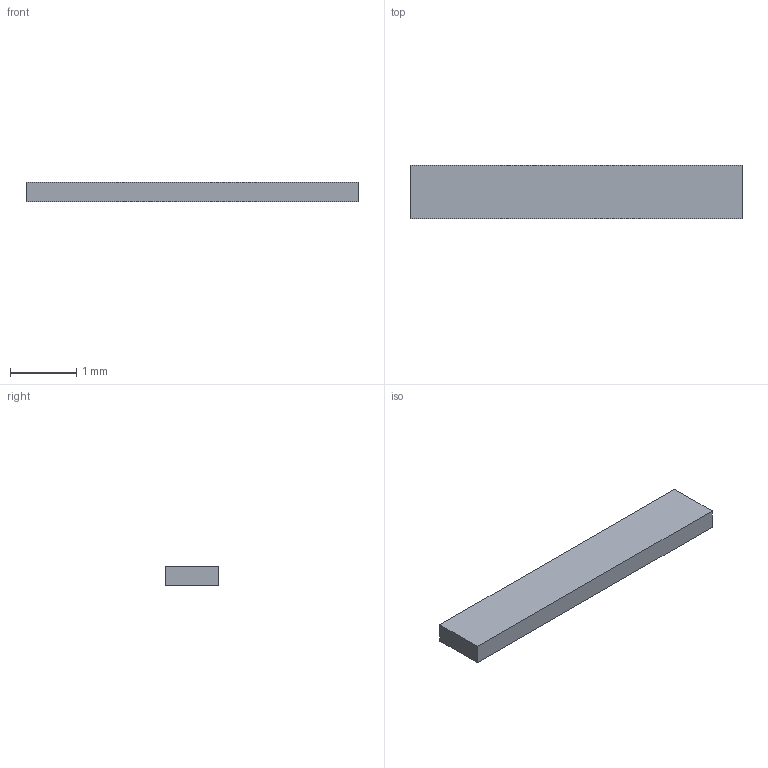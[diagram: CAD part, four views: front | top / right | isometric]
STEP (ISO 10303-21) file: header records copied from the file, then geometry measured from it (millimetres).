
FILE_DESCRIPTION(('Open CASCADE Model'),'2;1');
FILE_NAME('C27_UC1_PCB_Front_Seat_3_FREE_STATE','2026-09-09T20:28:31',( 'Author'),('Open CASCADE'),'Open CASCADE STEP processor 7.9', 'build123d','Unknown');
FILE_SCHEMA(('AUTOMOTIVE_DESIGN { 1 0 10303 214 1 1 1 1 }'));
Length unit declared in the file: millimetre
Products named in the file (1): C27_UC1_PCB_Front_Seat_3_FREE_STATE
Bounding box: 5 x 0.8 x 0.3 mm (x, y, z)
Volume: 1.2 mm3; surface area: 11.5 mm2
Topology: 1 solids, 1 shells, 6 faces, 12 edges, 8 vertices
Faces by surface type: plane 6
Entity records: 322 total; most frequent: CARTESIAN_POINT 51, DIRECTION 50, LINE 36, VECTOR 36, ORIENTED_EDGE 24, PCURVE 24, DEFINITIONAL_REPRESENTATION 24, EDGE_CURVE 12
